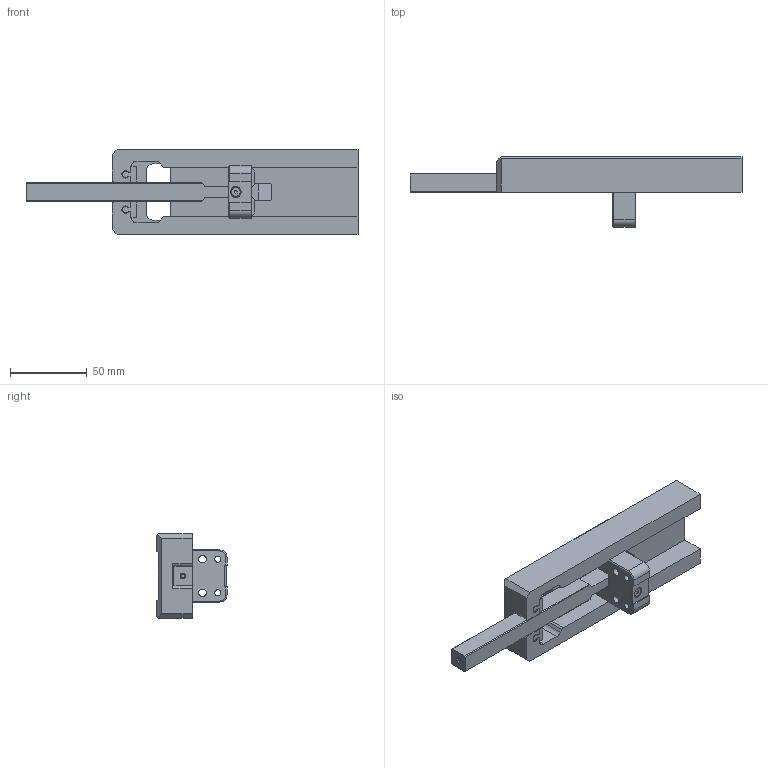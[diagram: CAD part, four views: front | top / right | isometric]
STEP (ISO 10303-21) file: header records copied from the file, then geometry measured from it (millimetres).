
FILE_DESCRIPTION (( 'STEP AP203' ), '1' );
FILE_NAME ('SA-60-160-15.STEP', '2015-06-16T04:53:46', ( '' ), ( '' ), 'SwSTEP 2.0', 'SolidWorks 2015', '' );
FILE_SCHEMA (( 'CONFIG_CONTROL_DESIGN' ));
Length unit declared in the file: millimetre
Products named in the file (2): SA-60-160-15
Bounding box: 216.32 x 45.7 x 55 mm (x, y, z)
Surface area: 44624.9 mm2 (no closed solid volume)
Topology: 0 solids, 10 shells, 143 faces, 528 edges, 384 vertices
Faces by surface type: plane 101, cylinder 33, cone 9
Full cylindrical faces by diameter (mm): 1.3 x2, 2.5 x1, 4 x2, 4.2 x2, 5 x2, 5.7 x1
Entity records: 5638 total; most frequent: CARTESIAN_POINT 1072, DIRECTION 891, ORIENTED_EDGE 841, EDGE_CURVE 510, LINE 395, VECTOR 395, VERTEX_POINT 381, AXIS2_PLACEMENT_3D 248
